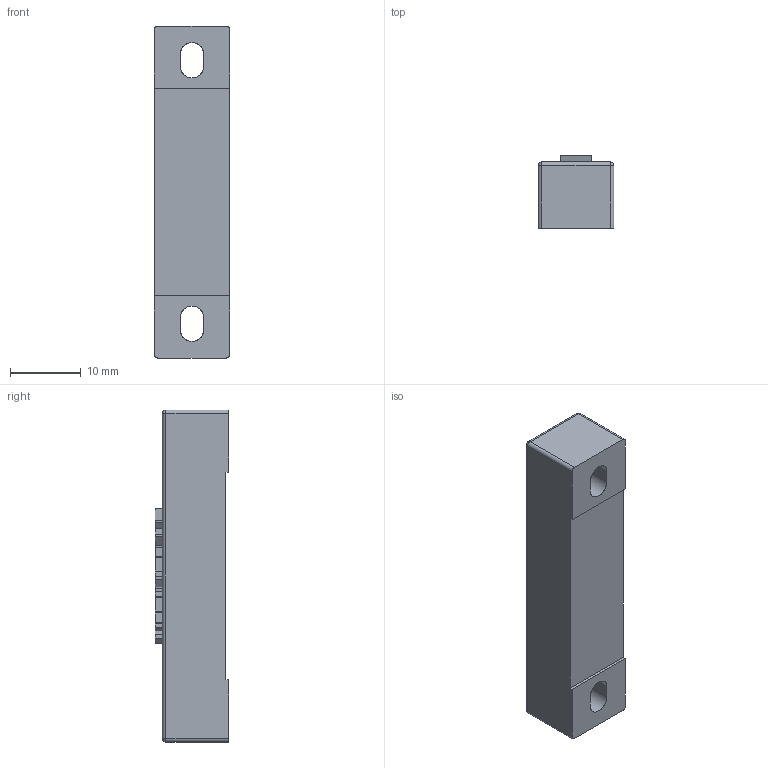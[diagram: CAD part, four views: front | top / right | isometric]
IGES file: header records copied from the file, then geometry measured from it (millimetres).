
Start section: SolidWorks IGES file using analytic representation for surfaces
Global section: file name: D:\X - Arquivos\PROEX\Empresas\P11 - METALTEX\01 - Produtos\IGES\7ª remessa\2ª etapa\SM2000.IGS; native system: SolidWorks 2012; preprocessor: SolidWorks 2012; author: Usuario; date: 190912.140429; units: millimetre
Bounding box: 10.7 x 10.4 x 47 mm (x, y, z)
Surface area: 2578.7 mm2 (no closed solid volume)
Topology: 0 solids, 0 shells, 144 faces, 996 edges, 992 vertices
Faces by surface type: bspline 120, revolution 24
